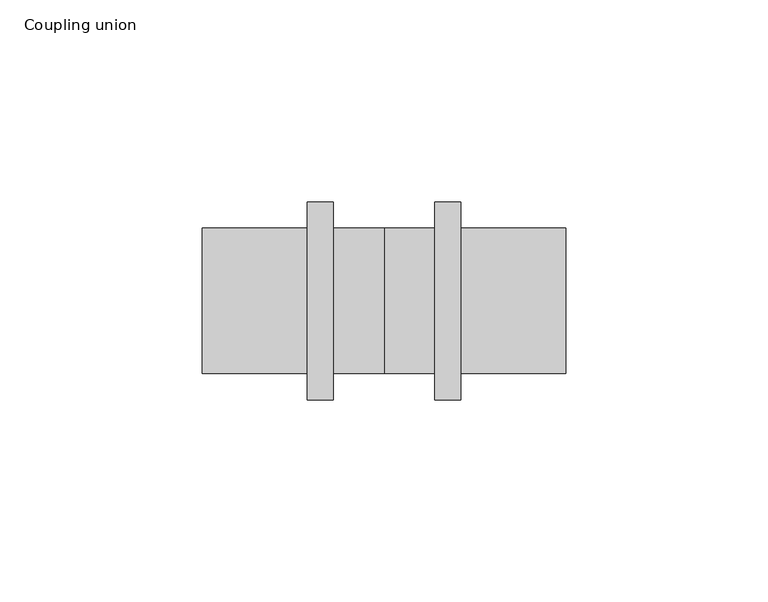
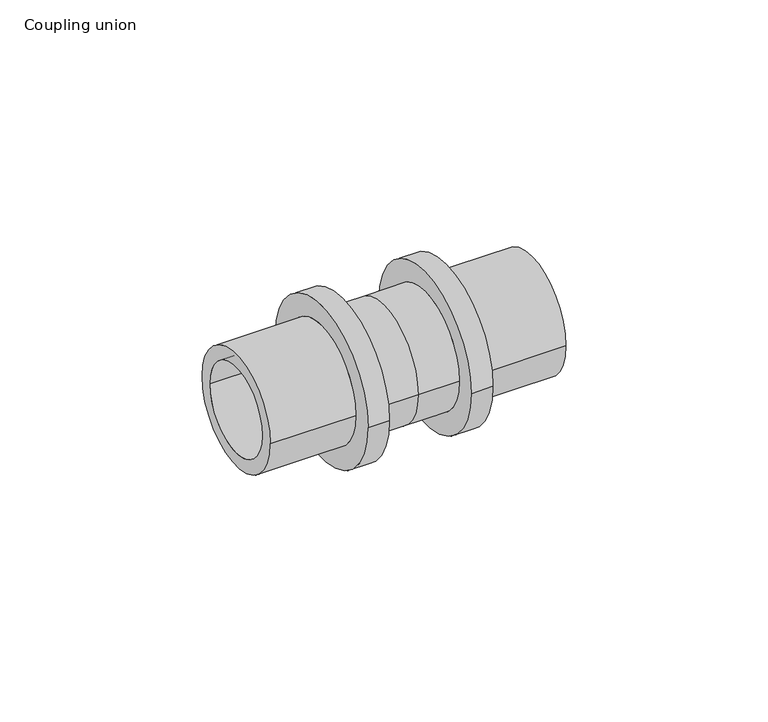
"""IFC4 building model written with IfcOpenShell, lengths in millimetres: pipe fitting geometry, Coupling union : C EQ SDR11 LX."""

from ifc_helpers import new_model, si_unit, frame, origin, place, context, project, spatial, polyline, circle_curve, source, transform, mapped, element, save
from ifc_brep_helpers import plane_surface, cylinder_surface, revolved_surface, advanced_brep


def coupling_union_26f199f2(model_context):
    return source(origin(), model_context, "Body", "AdvancedBrep", [
        advanced_brep(
        [(19.0, 24.5, 0.0), (19.0, -24.5, 0.0), (12.5, -24.5, 0.0), (12.5, 24.5, 0.0), (45.0, 18.0, 0.0), (45.0, -18.0, 0.0), (19.0, -18.0, 0.0), (19.0, 18.0, 0.0), (-45.0, 13.75, 0.0), (-45.0, -13.75, 0.0), (45.0, -13.75, 0.0), (45.0, 13.75, 0.0), (-19.0, 18.0, 0.0), (-19.0, -18.0, 0.0), (-45.0, -18.0, 0.0), (-45.0, 18.0, 0.0), (-12.5, 24.5, 0.0), (-12.5, -24.5, 0.0), (-19.0, -24.5, 0.0), (-19.0, 24.5, 0.0), (0.0, 18.0, 0.0), (0.0, -18.0, 0.0), (-12.5, -18.0, 0.0), (-12.5, 18.0, 0.0), (12.5, 18.0, 0.0), (12.5, -18.0, 0.0)],
        [
            (0, 1, circle_curve(frame((19.0, 0.0, 0.0), z_axis=(-1.0, 0.0, 0.0), x_axis=(0.0, -1.0, 0.0)), 24.5)),
            (1, 2),
            (2, 3, circle_curve(frame((12.5, 0.0, 0.0), z_axis=(1.0, 0.0, 0.0), x_axis=(0.0, -1.0, 0.0)), 24.5)),
            (3, 0),
            (4, 5, circle_curve(frame((45.0, 0.0, 0.0), z_axis=(-1.0, 0.0, 0.0), x_axis=(0.0, -1.0, 0.0)), 18.0)),
            (5, 6),
            (6, 7, circle_curve(frame((19.0, 0.0, 0.0), z_axis=(1.0, 0.0, 0.0), x_axis=(0.0, -1.0, 0.0)), 18.0)),
            (7, 4),
            (8, 9, circle_curve(frame((-45.0, 0.0, 0.0), z_axis=(-1.0, 0.0, 0.0), x_axis=(0.0, -1.0, 0.0)), 13.75)),
            (9, 10),
            (10, 11, circle_curve(frame((45.0, 0.0, 0.0), z_axis=(1.0, 0.0, 0.0), x_axis=(0.0, -1.0, 0.0)), 13.75)),
            (11, 8),
            (12, 13, circle_curve(frame((-19.0, 0.0, 0.0), z_axis=(-1.0, 0.0, 0.0), x_axis=(0.0, -1.0, 0.0)), 18.0)),
            (13, 14),
            (14, 15, circle_curve(frame((-45.0, 0.0, 0.0), z_axis=(1.0, 0.0, 0.0), x_axis=(0.0, -1.0, 0.0)), 18.0)),
            (15, 12),
            (16, 17, circle_curve(frame((-12.5, 0.0, 0.0), z_axis=(-1.0, 0.0, 0.0), x_axis=(0.0, -1.0, 0.0)), 24.5)),
            (17, 18),
            (18, 19, circle_curve(frame((-19.0, 0.0, 0.0), z_axis=(1.0, 0.0, 0.0), x_axis=(0.0, -1.0, 0.0)), 24.5)),
            (19, 16),
            (20, 21, circle_curve(frame((0.0, 0.0, 0.0), z_axis=(-1.0, 0.0, 0.0), x_axis=(0.0, -1.0, 0.0)), 18.0)),
            (21, 22),
            (22, 23, circle_curve(frame((-12.5, 0.0, 0.0), z_axis=(1.0, 0.0, 0.0), x_axis=(0.0, -1.0, 0.0)), 18.0)),
            (23, 20),
            (24, 25, circle_curve(frame((12.5, 0.0, 0.0), z_axis=(-1.0, 0.0, 0.0), x_axis=(0.0, -1.0, 0.0)), 18.0)),
            (25, 21),
            (20, 24),
            (1, 0, circle_curve(frame((19.0, 0.0, 0.0), z_axis=(-1.0, 0.0, 0.0), x_axis=(0.0, 1.0, 0.0)), 24.5)),
            (3, 2, circle_curve(frame((12.5, 0.0, 0.0), z_axis=(1.0, 0.0, 0.0), x_axis=(0.0, 1.0, 0.0)), 24.5)),
            (6, 7, circle_curve(frame((19.0, 0.0, 0.0), z_axis=(-1.0, 0.0, 0.0), x_axis=(0.0, 1.0, 0.0)), 18.0)),
            (5, 4, circle_curve(frame((45.0, 0.0, 0.0), z_axis=(-1.0, 0.0, 0.0), x_axis=(0.0, 1.0, 0.0)), 18.0)),
            (10, 11, circle_curve(frame((45.0, 0.0, 0.0), z_axis=(-1.0, 0.0, 0.0), x_axis=(0.0, 1.0, 0.0)), 13.75)),
            (9, 8, circle_curve(frame((-45.0, 0.0, 0.0), z_axis=(-1.0, 0.0, 0.0), x_axis=(0.0, 1.0, 0.0)), 13.75)),
            (14, 15, circle_curve(frame((-45.0, 0.0, 0.0), z_axis=(-1.0, 0.0, 0.0), x_axis=(0.0, 1.0, 0.0)), 18.0)),
            (13, 12, circle_curve(frame((-19.0, 0.0, 0.0), z_axis=(-1.0, 0.0, 0.0), x_axis=(0.0, 1.0, 0.0)), 18.0)),
            (18, 19, circle_curve(frame((-19.0, 0.0, 0.0), z_axis=(-1.0, 0.0, 0.0), x_axis=(0.0, 1.0, 0.0)), 24.5)),
            (17, 16, circle_curve(frame((-12.5, 0.0, 0.0), z_axis=(-1.0, 0.0, 0.0), x_axis=(0.0, 1.0, 0.0)), 24.5)),
            (22, 23, circle_curve(frame((-12.5, 0.0, 0.0), z_axis=(-1.0, 0.0, 0.0), x_axis=(0.0, 1.0, 0.0)), 18.0)),
            (21, 20, circle_curve(frame((0.0, 0.0, 0.0), z_axis=(-1.0, 0.0, 0.0), x_axis=(0.0, 1.0, 0.0)), 18.0)),
            (25, 24, circle_curve(frame((12.5, 0.0, 0.0), z_axis=(-1.0, 0.0, 0.0), x_axis=(0.0, 1.0, 0.0)), 18.0)),
        ],
        [
            cylinder_surface(frame((0.0, 0.0, 0.0), z_axis=(1.0, 0.0, 0.0), x_axis=(0.0, -1.0, 0.0)), 24.5),
            cylinder_surface(frame((0.0, 0.0, 0.0), z_axis=(1.0, 0.0, 0.0), x_axis=(0.0, -1.0, 0.0)), 18.0),
            revolved_surface(polyline([(45.0, -13.75, 0.0), (-45.0, -13.75, 0.0)]), (0.0, 0.0, 0.0), (1.0, 0.0, 0.0)),
            cylinder_surface(frame((0.0, 0.0, 0.0), z_axis=(1.0, 0.0, 0.0), x_axis=(0.0, 1.0, 0.0)), 24.5),
            plane_surface(frame((19.0, 0.0, 0.0), z_axis=(1.0, 0.0, 0.0), x_axis=(0.0, 1.0, 0.0))),
            cylinder_surface(frame((0.0, 0.0, 0.0), z_axis=(1.0, 0.0, 0.0), x_axis=(0.0, 1.0, 0.0)), 18.0),
            plane_surface(frame((45.0, 0.0, 0.0), z_axis=(1.0, 0.0, 0.0), x_axis=(0.0, 1.0, 0.0))),
            revolved_surface(polyline([(45.0, 13.75, 0.0), (-45.0, 13.75, 0.0)]), (0.0, 0.0, 0.0), (1.0, 0.0, 0.0)),
            plane_surface(frame((-45.0, 0.0, 0.0), z_axis=(-1.0, 0.0, 0.0), x_axis=(0.0, 1.0, 0.0))),
            plane_surface(frame((-19.0, 0.0, 0.0), z_axis=(-1.0, 0.0, 0.0), x_axis=(0.0, 1.0, 0.0))),
            plane_surface(frame((-12.5, 0.0, 0.0), z_axis=(1.0, 0.0, 0.0), x_axis=(0.0, 1.0, 0.0))),
            plane_surface(frame((12.5, 0.0, 0.0), z_axis=(-1.0, 0.0, 0.0), x_axis=(0.0, 1.0, 0.0))),
        ],
        [
            (0, [[1, 2, 3, 4]]),
            (1, [[5, 6, 7, 8]]),
            (2, [[9, 10, 11, 12]]),
            (1, [[13, 14, 15, 16]]),
            (0, [[17, 18, 19, 20]]),
            (1, [[21, 22, 23, 24]]),
            (1, [[25, 26, -21, 27]]),
            (3, [[28, -4, 29, -2]]),
            (4, [[-28, -1], [30, -7]]),
            (5, [[31, -8, -30, -6]]),
            (6, [[-31, -5], [32, -11]]),
            (7, [[33, -12, -32, -10]]),
            (8, [[34, -15], [-33, -9]]),
            (5, [[35, -16, -34, -14]]),
            (9, [[36, -19], [-35, -13]]),
            (3, [[37, -20, -36, -18]]),
            (10, [[-37, -17], [38, -23]]),
            (5, [[39, -24, -38, -22]]),
            (5, [[40, -27, -39, -26]]),
            (11, [[-29, -3], [-40, -25]]),
        ],
    ),
    ])


if __name__ == "__main__":
    model = new_model("IFC4")
    model_context = context("Model", 3, world=origin())
    ifc_project = project(units=[si_unit("LENGTHUNIT", "METRE", prefix="MILLI")], contexts=[model_context])
    site = spatial("IfcSite", under=ifc_project)
    building = spatial("IfcBuilding", under=site)
    placement = place(None, origin())
    coupling_union_shape = coupling_union_26f199f2(model_context)
    element("IfcPipeFitting", 1, ObjectType="Coupling union : C EQ SDR11 LX", at=placement, inside=building, context=model_context, shape_type="MappedRepresentation", body=[
        mapped(coupling_union_shape, transform((0.0, 0.0, 0.0), x_axis=(1.0, 0.0, 0.0), y_axis=(0.0, 1.0, 0.0), z_axis=(0.0, 0.0, 1.0))),
    ])
    save(model, "model.ifc")
